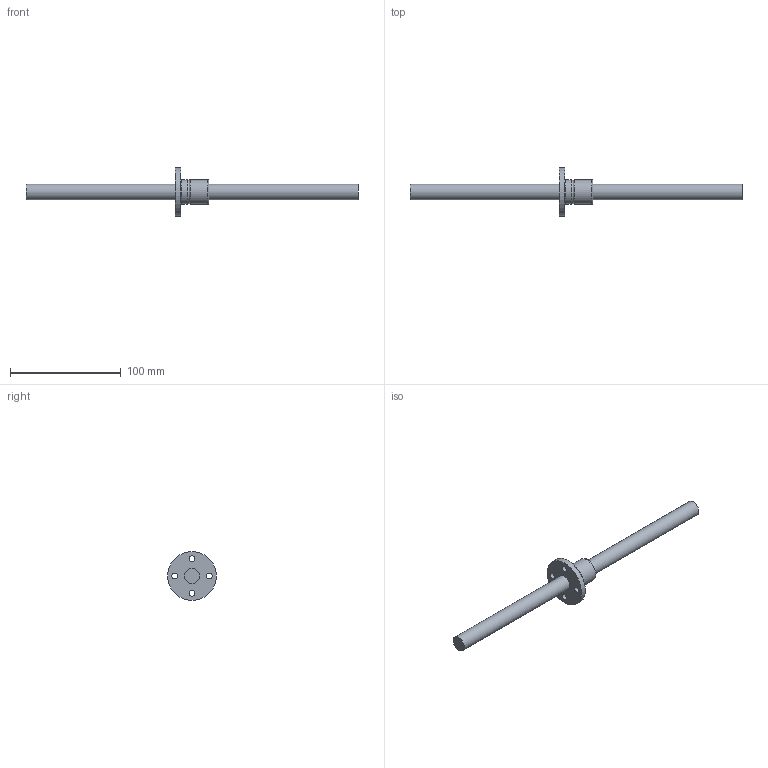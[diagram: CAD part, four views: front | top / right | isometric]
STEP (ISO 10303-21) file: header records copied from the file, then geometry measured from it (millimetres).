
FILE_DESCRIPTION((''),'2;1');
FILE_NAME('D:\製品 (図面)\カタログ用3D\ネジ関連\STEP形式\TMF-OH\TMF14-OH.stp','2010-06-02T15:13:07',('Tsuchiya'),(''),'Autodesk Inventor 10','Autodesk Inventor 10','');
FILE_SCHEMA(('AUTOMOTIVE_DESIGN { 1 0 10303 214 1 1 1 1 }'));
Length unit declared in the file: millimetre
Products named in the file (3): TMF14-OH; TMF14-OH1; TMF14-OH2
Assembly tree (2 placements, depth 2):
  TMF14-OH
    TMF14-OH1
    TMF14-OH2
Bounding box: 300 x 44 x 44 mm (x, y, z)
Volume: 58135.8 mm3; surface area: 20111 mm2
Topology: 2 solids, 2 shells, 18 faces, 40 edges, 27 vertices
Faces by surface type: cylinder 10, plane 5, bspline 2, torus 1
Full cylindrical faces by diameter (mm): 1.5 x1, 5.4 x4, 14 x2, 22 x2, 44 x1
Entity records: 708 total; most frequent: CARTESIAN_POINT 285, DIRECTION 82, ORIENTED_EDGE 44, EDGE_LOOP 44, AXIS2_PLACEMENT_3D 41, FACE_BOUND 26, VERTEX_POINT 22, EDGE_CURVE 22
